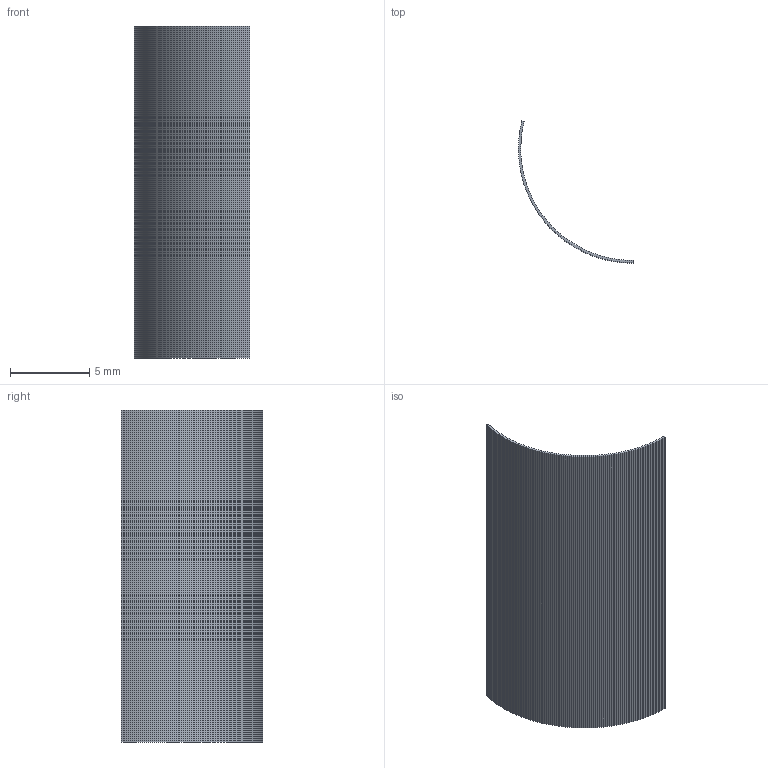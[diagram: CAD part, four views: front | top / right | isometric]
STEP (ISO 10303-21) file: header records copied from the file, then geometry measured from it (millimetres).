
FILE_DESCRIPTION(('Open CASCADE Model'),'2;1');
FILE_NAME('Open CASCADE Shape Model','2026-10-04T01:02:35',('Author'),( 'Open CASCADE'),'Open CASCADE STEP processor 8.0','Open CASCADE 8.0' ,'Unknown');
FILE_SCHEMA(('AUTOMOTIVE_DESIGN { 1 0 10303 214 1 1 1 1 }'));
Length unit declared in the file: millimetre
Products named in the file (1): Open CASCADE STEP translator 8.0 395
Bounding box: 7.28 x 8.97 x 21 mm (x, y, z)
Volume: 41.1 mm3; surface area: 557.8 mm2
Topology: 1 solids, 1 shells, 214 faces, 636 edges, 424 vertices
Faces by surface type: plane 214
Entity records: 15298 total; most frequent: CARTESIAN_POINT 2547, DIRECTION 2338, LINE 1908, VECTOR 1908, ORIENTED_EDGE 1272, PCURVE 1272, DEFINITIONAL_REPRESENTATION 1272, EDGE_CURVE 636
